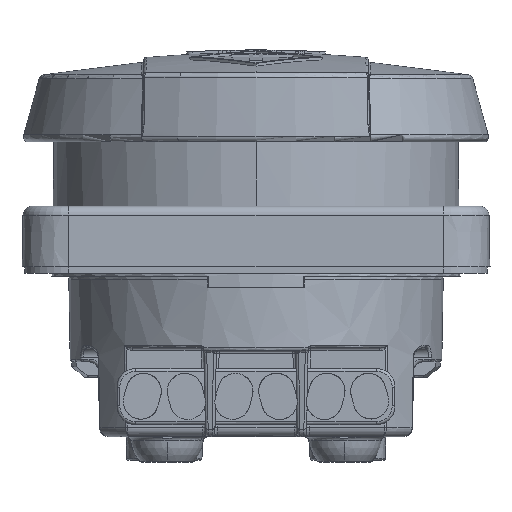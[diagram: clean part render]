
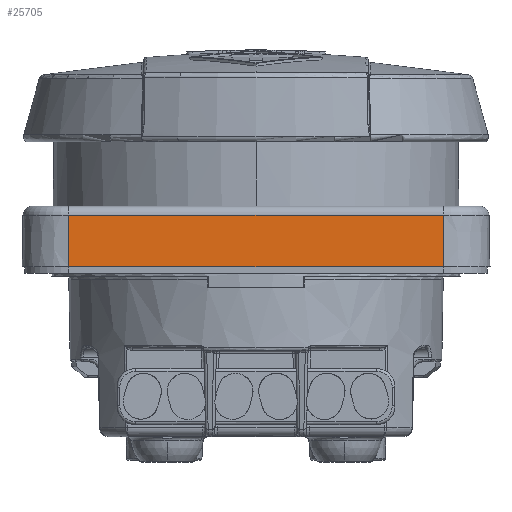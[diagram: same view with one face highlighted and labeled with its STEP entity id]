
A CAD part, front view. The second image highlights one B-rep face of the part: STEP entity #25705.
In plain terms, the highlighted planar face has unit normal (0, -1, 0.018).
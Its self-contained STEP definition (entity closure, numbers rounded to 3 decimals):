
#1707=DIRECTION('',(0.,-0.017,-1.));
#1708=VECTOR('',#1707,5.518);
#1709=CARTESIAN_POINT('',(20.,-24.904,5.517));
#1710=LINE('4598',#1709,#1708);
#1714=DIRECTION('',(-1.,0.,0.));
#1715=VECTOR('',#1714,40.);
#1716=CARTESIAN_POINT('',(20.,-25.,0.));
#1717=LINE('4551',#1716,#1715);
#1728=DIRECTION('',(1.,0.,0.));
#1729=VECTOR('',#1728,40.);
#1730=CARTESIAN_POINT('',(-20.,-24.904,
5.517));
#1731=LINE('4584',#1730,#1729);
#1767=DIRECTION('',(0.,-0.017,-1.));
#1768=VECTOR('',#1767,5.518);
#1769=CARTESIAN_POINT('',(-20.,-24.904,
5.517));
#1770=LINE('4599',#1769,#1768);
#21759=CARTESIAN_POINT('',(20.,-25.,0.));
#21760=VERTEX_POINT('',#21759);
#21761=CARTESIAN_POINT('',(-20.,-25.,0.));
#21762=VERTEX_POINT('',#21761);
#21811=CARTESIAN_POINT('',(20.,-24.904,5.517));
#21812=VERTEX_POINT('',#21811);
#21815=CARTESIAN_POINT('',(-20.,-24.904,
5.517));
#21816=VERTEX_POINT('',#21815);
#25692=CARTESIAN_POINT('',(22.2,-25.,0.));
#25693=DIRECTION('',(0.,-1.,0.017));
#25694=DIRECTION('',(1.,0.,0.));
#25695=AXIS2_PLACEMENT_3D('',#25692,#25693,#25694);
#25696=PLANE('3614',#25695);
#25698=ORIENTED_EDGE('4584',*,*,#25697,.T.);
#25699=ORIENTED_EDGE('4598',*,*,#25680,.T.);
#25700=ORIENTED_EDGE('4551',*,*,#25081,.T.);
#25702=ORIENTED_EDGE('4599',*,*,#25701,.F.);
#25703=EDGE_LOOP('3614',(#25698,#25699,#25700,#25702));
#25704=FACE_OUTER_BOUND('3614',#25703,.F.);
#25081=EDGE_CURVE('4551',#21760,#21762,#1717,.T.);
#25680=EDGE_CURVE('4598',#21812,#21760,#1710,.T.);
#25697=EDGE_CURVE('4584',#21816,#21812,#1731,.T.);
#25701=EDGE_CURVE('4599',#21816,#21762,#1770,.T.);
#25705=ADVANCED_FACE('3614',(#25704),#25696,.T.);
